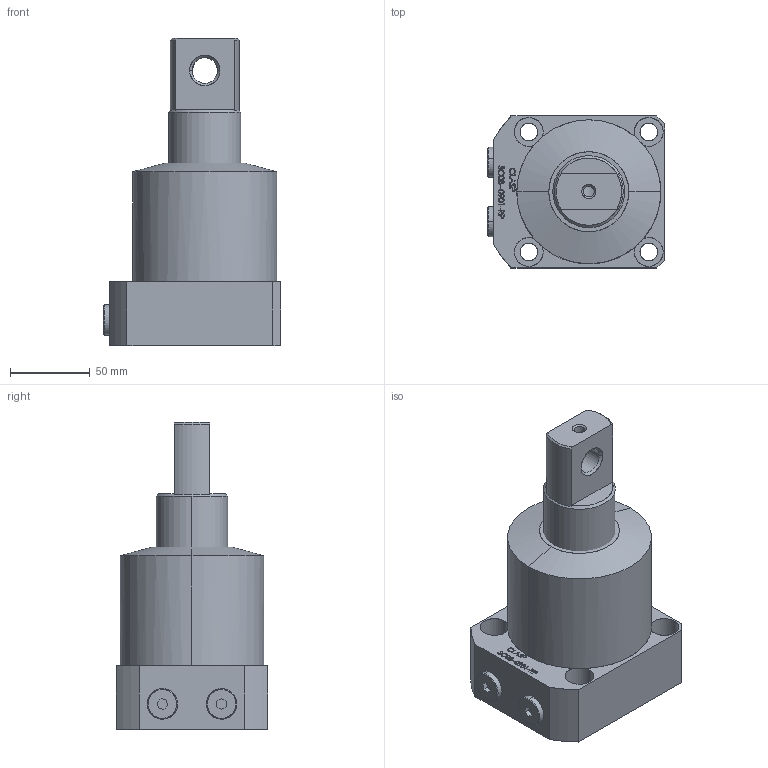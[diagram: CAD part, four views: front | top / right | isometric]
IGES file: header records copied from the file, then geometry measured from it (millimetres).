
Start section: SolidWorks IGES file using analytic representation for surfaces
Global section: file name: D:\karuppas\Clasp\3D model\SWING CYLINDER\Bottom Mounting swing cylinder-P type\SC08-0901-RP\SC08-0901-RP.IGS; native system: SolidWorks 2017; preprocessor: SolidWorks 2017; author: pc; date: 220708.223552; units: millimetre
Bounding box: 111 x 95 x 192 mm (x, y, z)
Surface area: 81694.8 mm2 (no closed solid volume)
Topology: 0 solids, 0 shells, 341 faces, 5404 edges, 5404 vertices
Faces by surface type: bspline 269, revolution 72
